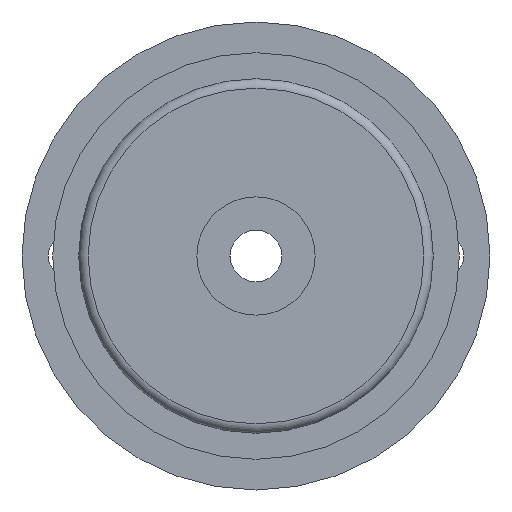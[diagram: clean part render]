
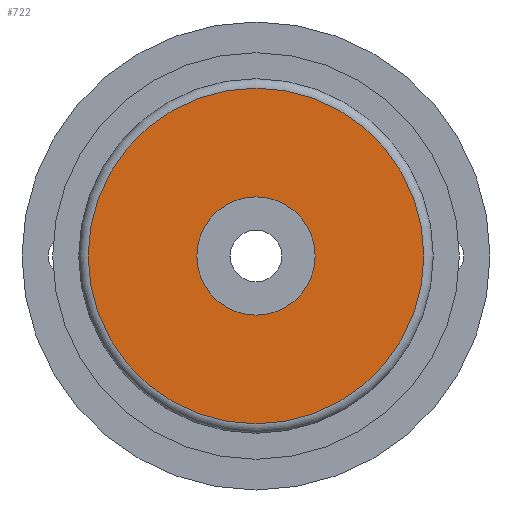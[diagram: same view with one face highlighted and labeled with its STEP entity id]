
A CAD part, left-side view. The second image highlights one B-rep face of the part: STEP entity #722.
In plain terms, the highlighted planar face has unit normal (-1, 0, 0).
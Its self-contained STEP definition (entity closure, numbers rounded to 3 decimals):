
#563 = CYLINDRICAL_SURFACE('',#564,2.5);
#564 = AXIS2_PLACEMENT_3D('',#565,#566,#567);
#565 = CARTESIAN_POINT('',(42.4,0.,115.));
#566 = DIRECTION('',(1.,0.,0.));
#567 = DIRECTION('',(-0.,0.,1.));
#637 = VERTEX_POINT('',#638);
#638 = CARTESIAN_POINT('',(43.4,0.,117.5));
#661 = EDGE_CURVE('',#637,#637,#662,.T.);
#662 = SURFACE_CURVE('',#663,(#668,#675),.PCURVE_S1.);
#663 = CIRCLE('',#664,2.5);
#664 = AXIS2_PLACEMENT_3D('',#665,#666,#667);
#665 = CARTESIAN_POINT('',(43.4,0.,115.));
#666 = DIRECTION('',(1.,0.,0.));
#667 = DIRECTION('',(-0.,0.,1.));
#668 = PCURVE('',#563,#669);
#669 = DEFINITIONAL_REPRESENTATION('',(#670),#674);
#670 = LINE('',#671,#672);
#671 = CARTESIAN_POINT('',(0.,1.));
#672 = VECTOR('',#673,1.);
#673 = DIRECTION('',(1.,0.));
#674 = ( GEOMETRIC_REPRESENTATION_CONTEXT(2) 
PARAMETRIC_REPRESENTATION_CONTEXT() REPRESENTATION_CONTEXT('2D SPACE',''
  ) );
#675 = PCURVE('',#676,#681);
#676 = PLANE('',#677);
#677 = AXIS2_PLACEMENT_3D('',#678,#679,#680);
#678 = CARTESIAN_POINT('',(43.4,0.,115.));
#679 = DIRECTION('',(1.,0.,0.));
#680 = DIRECTION('',(-0.,0.,1.));
#681 = DEFINITIONAL_REPRESENTATION('',(#682),#686);
#682 = CIRCLE('',#683,2.5);
#683 = AXIS2_PLACEMENT_2D('',#684,#685);
#684 = CARTESIAN_POINT('',(0.,0.));
#685 = DIRECTION('',(1.,0.));
#686 = ( GEOMETRIC_REPRESENTATION_CONTEXT(2) 
PARAMETRIC_REPRESENTATION_CONTEXT() REPRESENTATION_CONTEXT('2D SPACE',''
  ) );
#722 = ADVANCED_FACE('',(#723,#754),#676,.F.);
#723 = FACE_BOUND('',#724,.F.);
#724 = EDGE_LOOP('',(#725));
#725 = ORIENTED_EDGE('',*,*,#726,.T.);
#726 = EDGE_CURVE('',#727,#727,#729,.T.);
#727 = VERTEX_POINT('',#728);
#728 = CARTESIAN_POINT('',(43.4,0.,122.1));
#729 = SURFACE_CURVE('',#730,(#735,#742),.PCURVE_S1.);
#730 = CIRCLE('',#731,7.1);
#731 = AXIS2_PLACEMENT_3D('',#732,#733,#734);
#732 = CARTESIAN_POINT('',(43.4,0.,115.));
#733 = DIRECTION('',(1.,0.,0.));
#734 = DIRECTION('',(-0.,0.,1.));
#735 = PCURVE('',#676,#736);
#736 = DEFINITIONAL_REPRESENTATION('',(#737),#741);
#737 = CIRCLE('',#738,7.1);
#738 = AXIS2_PLACEMENT_2D('',#739,#740);
#739 = CARTESIAN_POINT('',(0.,0.));
#740 = DIRECTION('',(1.,0.));
#741 = ( GEOMETRIC_REPRESENTATION_CONTEXT(2) 
PARAMETRIC_REPRESENTATION_CONTEXT() REPRESENTATION_CONTEXT('2D SPACE',''
  ) );
#742 = PCURVE('',#743,#748);
#743 = TOROIDAL_SURFACE('',#744,7.1,0.4);
#744 = AXIS2_PLACEMENT_3D('',#745,#746,#747);
#745 = CARTESIAN_POINT('',(43.8,0.,115.));
#746 = DIRECTION('',(-1.,-0.,-0.));
#747 = DIRECTION('',(-0.,0.,1.));
#748 = DEFINITIONAL_REPRESENTATION('',(#749),#753);
#749 = LINE('',#750,#751);
#750 = CARTESIAN_POINT('',(-0.,1.571));
#751 = VECTOR('',#752,1.);
#752 = DIRECTION('',(-1.,0.));
#753 = ( GEOMETRIC_REPRESENTATION_CONTEXT(2) 
PARAMETRIC_REPRESENTATION_CONTEXT() REPRESENTATION_CONTEXT('2D SPACE',''
  ) );
#754 = FACE_BOUND('',#755,.F.);
#755 = EDGE_LOOP('',(#756));
#756 = ORIENTED_EDGE('',*,*,#661,.F.);
